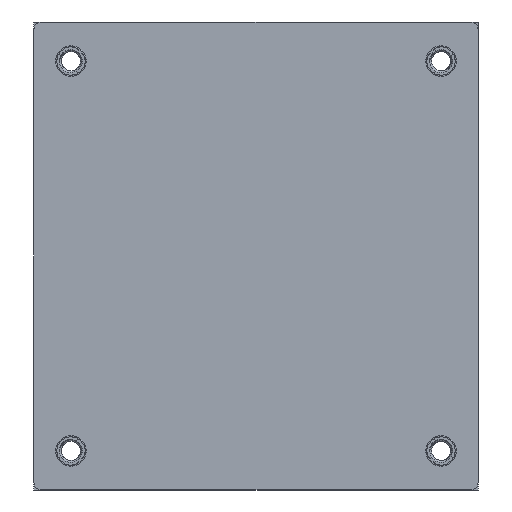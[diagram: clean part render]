
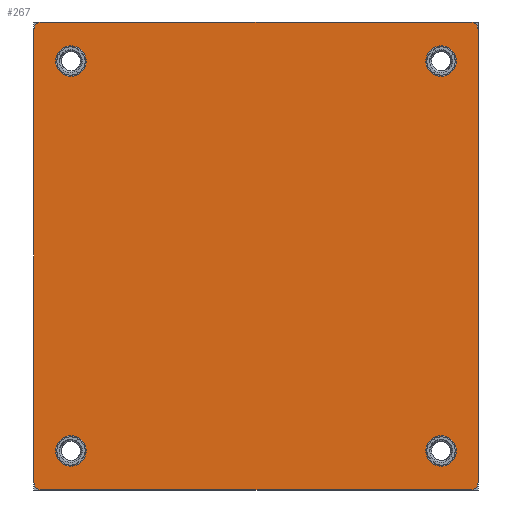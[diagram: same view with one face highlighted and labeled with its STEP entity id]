
A CAD part, front view. The second image highlights one B-rep face of the part: STEP entity #267.
In plain terms, the highlighted planar face has unit normal (0, -1, 0).
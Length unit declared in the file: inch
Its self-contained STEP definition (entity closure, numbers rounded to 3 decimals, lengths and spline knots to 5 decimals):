
#79 = EDGE_CURVE ( 'NONE', #29500, #25410, #33734, .T. ) ;
#267 = ADVANCED_FACE ( 'NONE', ( #21299, #3765, #17806, #7634, #31683 ), #39301, .F. ) ;
#386 = ORIENTED_EDGE ( 'NONE', *, *, #79, .F. ) ;
#875 = ORIENTED_EDGE ( 'NONE', *, *, #30894, .F. ) ;
#909 = VERTEX_POINT ( 'NONE', #7541 ) ;
#1061 = CARTESIAN_POINT ( 'NONE',  ( -0.95, -0.05906, -1. ) ) ;
#1312 = AXIS2_PLACEMENT_3D ( 'NONE', #30930, #3047, #24717 ) ;
#1747 = ORIENTED_EDGE ( 'NONE', *, *, #34399, .F. ) ;
#2221 = LINE ( 'NONE', #23216, #16718 ) ;
#2552 = VERTEX_POINT ( 'NONE', #6667 ) ;
#2735 = CIRCLE ( 'NONE', #15194, 0.03937 ) ;
#2748 = VERTEX_POINT ( 'NONE', #35843 ) ;
#2755 = DIRECTION ( 'NONE',  ( 0., 0., 1. ) ) ;
#3047 = DIRECTION ( 'NONE',  ( 0., -1., 0. ) ) ;
#3702 = CARTESIAN_POINT ( 'NONE',  ( -0.95, -0.05906, -0.92126 ) ) ;
#3765 = FACE_BOUND ( 'NONE', #39514, .T. ) ;
#4056 = VERTEX_POINT ( 'NONE', #45642 ) ;
#4181 = VECTOR ( 'NONE', #6352, 39.37008 ) ;
#5709 = CIRCLE ( 'NONE', #1312, 0.07874 ) ;
#5825 = CARTESIAN_POINT ( 'NONE',  ( -0.95, -0.05906, 1.07874 ) ) ;
#5870 = ORIENTED_EDGE ( 'NONE', *, *, #35192, .F. ) ;
#6148 = DIRECTION ( 'NONE',  ( 0., 0., 1. ) ) ;
#6352 = DIRECTION ( 'NONE',  ( 0., 0., 1. ) ) ;
#6422 = CIRCLE ( 'NONE', #12329, 0.03937 ) ;
#6667 = CARTESIAN_POINT ( 'NONE',  ( -0.95, -0.05906, -1.07874 ) ) ;
#6803 = EDGE_CURVE ( 'NONE', #19954, #8840, #43867, .T. ) ;
#7176 = CARTESIAN_POINT ( 'NONE',  ( 0.95, -0.05906, -1.07874 ) ) ;
#7218 = AXIS2_PLACEMENT_3D ( 'NONE', #1061, #36600, #40052 ) ;
#7412 = CIRCLE ( 'NONE', #14804, 0.07874 ) ;
#7541 = CARTESIAN_POINT ( 'NONE',  ( -1.13976, -0.05906, -1.16142 ) ) ;
#7561 = CARTESIAN_POINT ( 'NONE',  ( -0.95, -0.05906, 1. ) ) ;
#7634 = FACE_BOUND ( 'NONE', #28345, .T. ) ;
#8078 = CARTESIAN_POINT ( 'NONE',  ( 0.95, -0.05906, -1. ) ) ;
#8840 = VERTEX_POINT ( 'NONE', #36395 ) ;
#8867 = CARTESIAN_POINT ( 'NONE',  ( 0.95, -0.05906, 1. ) ) ;
#9175 = ORIENTED_EDGE ( 'NONE', *, *, #24653, .F. ) ;
#9590 = CARTESIAN_POINT ( 'NONE',  ( -1.13976, -0.05906, 1.20079 ) ) ;
#9801 = AXIS2_PLACEMENT_3D ( 'NONE', #8867, #15318, #40066 ) ;
#10069 = DIRECTION ( 'NONE',  ( 0., 1., 0. ) ) ;
#10094 = CARTESIAN_POINT ( 'NONE',  ( -1.10039, -0.05906, 1.16142 ) ) ;
#11041 = CARTESIAN_POINT ( 'NONE',  ( -1.10039, -0.05906, -1.20079 ) ) ;
#11380 = EDGE_CURVE ( 'NONE', #4056, #17076, #36472, .T. ) ;
#11422 = EDGE_LOOP ( 'NONE', ( #29339, #386, #23081, #45684, #26535, #13705, #34670, #23891 ) ) ;
#11610 = VERTEX_POINT ( 'NONE', #38954 ) ;
#11645 = DIRECTION ( 'NONE',  ( 0., -1., 0. ) ) ;
#11679 = CARTESIAN_POINT ( 'NONE',  ( 0.95, -0.05906, 1.07874 ) ) ;
#11797 = CIRCLE ( 'NONE', #17662, 0.03937 ) ;
#12329 = AXIS2_PLACEMENT_3D ( 'NONE', #34327, #13077, #2755 ) ;
#12596 = AXIS2_PLACEMENT_3D ( 'NONE', #25063, #11645, #25727 ) ;
#13077 = DIRECTION ( 'NONE',  ( 0., 1., 0. ) ) ;
#13705 = ORIENTED_EDGE ( 'NONE', *, *, #29722, .F. ) ;
#14161 = EDGE_CURVE ( 'NONE', #27425, #11610, #16684, .T. ) ;
#14465 = EDGE_CURVE ( 'NONE', #17076, #29500, #6422, .T. ) ;
#14790 = DIRECTION ( 'NONE',  ( 0., -1., 0. ) ) ;
#14804 = AXIS2_PLACEMENT_3D ( 'NONE', #7561, #21675, #35758 ) ;
#15194 = AXIS2_PLACEMENT_3D ( 'NONE', #15529, #43276, #15286 ) ;
#15286 = DIRECTION ( 'NONE',  ( 0., 0., 1. ) ) ;
#15318 = DIRECTION ( 'NONE',  ( 0., -1., 0. ) ) ;
#15529 = CARTESIAN_POINT ( 'NONE',  ( 1.10039, -0.05906, 1.16142 ) ) ;
#16158 = CARTESIAN_POINT ( 'NONE',  ( -1.13976, -0.05906, -1.20079 ) ) ;
#16684 = CIRCLE ( 'NONE', #23352, 0.07874 ) ;
#16718 = VECTOR ( 'NONE', #40984, 39.37008 ) ;
#17076 = VERTEX_POINT ( 'NONE', #24047 ) ;
#17662 = AXIS2_PLACEMENT_3D ( 'NONE', #44958, #10069, #6148 ) ;
#17711 = EDGE_LOOP ( 'NONE', ( #875, #9175 ) ) ;
#17806 = FACE_BOUND ( 'NONE', #17711, .T. ) ;
#18097 = EDGE_CURVE ( 'NONE', #25410, #909, #11797, .T. ) ;
#18450 = EDGE_CURVE ( 'NONE', #40195, #45208, #18453, .T. ) ;
#18453 = CIRCLE ( 'NONE', #40615, 0.07874 ) ;
#19372 = CIRCLE ( 'NONE', #9801, 0.07874 ) ;
#19734 = DIRECTION ( 'NONE',  ( 0., -1., 0. ) ) ;
#19778 = VERTEX_POINT ( 'NONE', #11679 ) ;
#19954 = VERTEX_POINT ( 'NONE', #38917 ) ;
#20496 = CARTESIAN_POINT ( 'NONE',  ( 0.95, -0.05906, 0.92126 ) ) ;
#20798 = CARTESIAN_POINT ( 'NONE',  ( -0.95, -0.05906, 1. ) ) ;
#20813 = ORIENTED_EDGE ( 'NONE', *, *, #18450, .F. ) ;
#21064 = DIRECTION ( 'NONE',  ( 0., 0., 1. ) ) ;
#21201 = VERTEX_POINT ( 'NONE', #20496 ) ;
#21299 = FACE_OUTER_BOUND ( 'NONE', #11422, .T. ) ;
#21675 = DIRECTION ( 'NONE',  ( 0., -1., 0. ) ) ;
#23081 = ORIENTED_EDGE ( 'NONE', *, *, #14465, .F. ) ;
#23216 = CARTESIAN_POINT ( 'NONE',  ( -1.13976, -0.05906, 1.20079 ) ) ;
#23274 = DIRECTION ( 'NONE',  ( 0., 0., 1. ) ) ;
#23352 = AXIS2_PLACEMENT_3D ( 'NONE', #8078, #14790, #43665 ) ;
#23891 = ORIENTED_EDGE ( 'NONE', *, *, #42426, .F. ) ;
#24047 = CARTESIAN_POINT ( 'NONE',  ( 1.13976, -0.05906, -1.16142 ) ) ;
#24653 = EDGE_CURVE ( 'NONE', #21201, #19778, #19372, .T. ) ;
#24717 = DIRECTION ( 'NONE',  ( 0., 0., 1. ) ) ;
#25063 = CARTESIAN_POINT ( 'NONE',  ( -0.95, -0.05906, -1. ) ) ;
#25410 = VERTEX_POINT ( 'NONE', #11041 ) ;
#25727 = DIRECTION ( 'NONE',  ( 0., 0., 1. ) ) ;
#26535 = ORIENTED_EDGE ( 'NONE', *, *, #29194, .F. ) ;
#26651 = ORIENTED_EDGE ( 'NONE', *, *, #14161, .F. ) ;
#26773 = DIRECTION ( 'NONE',  ( -1., 0., 0. ) ) ;
#27159 = AXIS2_PLACEMENT_3D ( 'NONE', #39081, #42092, #21064 ) ;
#27341 = CARTESIAN_POINT ( 'NONE',  ( 0.95, -0.05906, -1. ) ) ;
#27425 = VERTEX_POINT ( 'NONE', #7176 ) ;
#27718 = DIRECTION ( 'NONE',  ( 0., 0., 1. ) ) ;
#27924 = AXIS2_PLACEMENT_3D ( 'NONE', #27341, #19734, #45149 ) ;
#28345 = EDGE_LOOP ( 'NONE', ( #1747, #30239 ) ) ;
#29194 = EDGE_CURVE ( 'NONE', #2748, #4056, #2735, .T. ) ;
#29339 = ORIENTED_EDGE ( 'NONE', *, *, #18097, .F. ) ;
#29401 = VECTOR ( 'NONE', #26773, 39.37008 ) ;
#29500 = VERTEX_POINT ( 'NONE', #31092 ) ;
#29522 = CARTESIAN_POINT ( 'NONE',  ( 1.13976, -0.05906, 1.20079 ) ) ;
#29722 = EDGE_CURVE ( 'NONE', #8840, #2748, #2221, .T. ) ;
#30234 = CARTESIAN_POINT ( 'NONE',  ( -0.95, -0.05906, 0.92126 ) ) ;
#30239 = ORIENTED_EDGE ( 'NONE', *, *, #43305, .F. ) ;
#30894 = EDGE_CURVE ( 'NONE', #19778, #21201, #5709, .T. ) ;
#30930 = CARTESIAN_POINT ( 'NONE',  ( 0.95, -0.05906, 1. ) ) ;
#31092 = CARTESIAN_POINT ( 'NONE',  ( 1.10039, -0.05906, -1.20079 ) ) ;
#31683 = FACE_BOUND ( 'NONE', #33014, .T. ) ;
#32180 = EDGE_CURVE ( 'NONE', #11610, #27425, #44178, .T. ) ;
#32258 = CIRCLE ( 'NONE', #7218, 0.07874 ) ;
#32496 = CIRCLE ( 'NONE', #12596, 0.07874 ) ;
#33014 = EDGE_LOOP ( 'NONE', ( #36207, #26651 ) ) ;
#33734 = LINE ( 'NONE', #16158, #29401 ) ;
#34284 = LINE ( 'NONE', #9590, #4181 ) ;
#34327 = CARTESIAN_POINT ( 'NONE',  ( 1.10039, -0.05906, -1.16142 ) ) ;
#34399 = EDGE_CURVE ( 'NONE', #40843, #2552, #32496, .T. ) ;
#34670 = ORIENTED_EDGE ( 'NONE', *, *, #6803, .F. ) ;
#34896 = DIRECTION ( 'NONE',  ( 0., -1., 0. ) ) ;
#35192 = EDGE_CURVE ( 'NONE', #45208, #40195, #7412, .T. ) ;
#35758 = DIRECTION ( 'NONE',  ( 0., 0., 1. ) ) ;
#35843 = CARTESIAN_POINT ( 'NONE',  ( 1.10039, -0.05906, 1.20079 ) ) ;
#36207 = ORIENTED_EDGE ( 'NONE', *, *, #32180, .F. ) ;
#36395 = CARTESIAN_POINT ( 'NONE',  ( -1.10039, -0.05906, 1.20079 ) ) ;
#36472 = LINE ( 'NONE', #29522, #43190 ) ;
#36600 = DIRECTION ( 'NONE',  ( 0., -1., 0. ) ) ;
#38917 = CARTESIAN_POINT ( 'NONE',  ( -1.13976, -0.05906, 1.16142 ) ) ;
#38954 = CARTESIAN_POINT ( 'NONE',  ( 0.95, -0.05906, -0.92126 ) ) ;
#39081 = CARTESIAN_POINT ( 'NONE',  ( -1.13976, -0.05906, 1.20079 ) ) ;
#39301 = PLANE ( 'NONE',  #27159 ) ;
#39514 = EDGE_LOOP ( 'NONE', ( #5870, #20813 ) ) ;
#40052 = DIRECTION ( 'NONE',  ( 0., 0., 1. ) ) ;
#40066 = DIRECTION ( 'NONE',  ( 0., 0., 1. ) ) ;
#40195 = VERTEX_POINT ( 'NONE', #30234 ) ;
#40615 = AXIS2_PLACEMENT_3D ( 'NONE', #20798, #34896, #27718 ) ;
#40843 = VERTEX_POINT ( 'NONE', #3702 ) ;
#40888 = AXIS2_PLACEMENT_3D ( 'NONE', #10094, #44527, #23274 ) ;
#40984 = DIRECTION ( 'NONE',  ( 1., 0., 0. ) ) ;
#42092 = DIRECTION ( 'NONE',  ( 0., 1., 0. ) ) ;
#42426 = EDGE_CURVE ( 'NONE', #909, #19954, #34284, .T. ) ;
#43190 = VECTOR ( 'NONE', #43612, 39.37008 ) ;
#43276 = DIRECTION ( 'NONE',  ( 0., 1., 0. ) ) ;
#43305 = EDGE_CURVE ( 'NONE', #2552, #40843, #32258, .T. ) ;
#43612 = DIRECTION ( 'NONE',  ( 0., 0., -1. ) ) ;
#43665 = DIRECTION ( 'NONE',  ( 0., 0., 1. ) ) ;
#43867 = CIRCLE ( 'NONE', #40888, 0.03937 ) ;
#44178 = CIRCLE ( 'NONE', #27924, 0.07874 ) ;
#44527 = DIRECTION ( 'NONE',  ( 0., 1., 0. ) ) ;
#44958 = CARTESIAN_POINT ( 'NONE',  ( -1.10039, -0.05906, -1.16142 ) ) ;
#45149 = DIRECTION ( 'NONE',  ( 0., 0., 1. ) ) ;
#45208 = VERTEX_POINT ( 'NONE', #5825 ) ;
#45642 = CARTESIAN_POINT ( 'NONE',  ( 1.13976, -0.05906, 1.16142 ) ) ;
#45684 = ORIENTED_EDGE ( 'NONE', *, *, #11380, .F. ) ;
